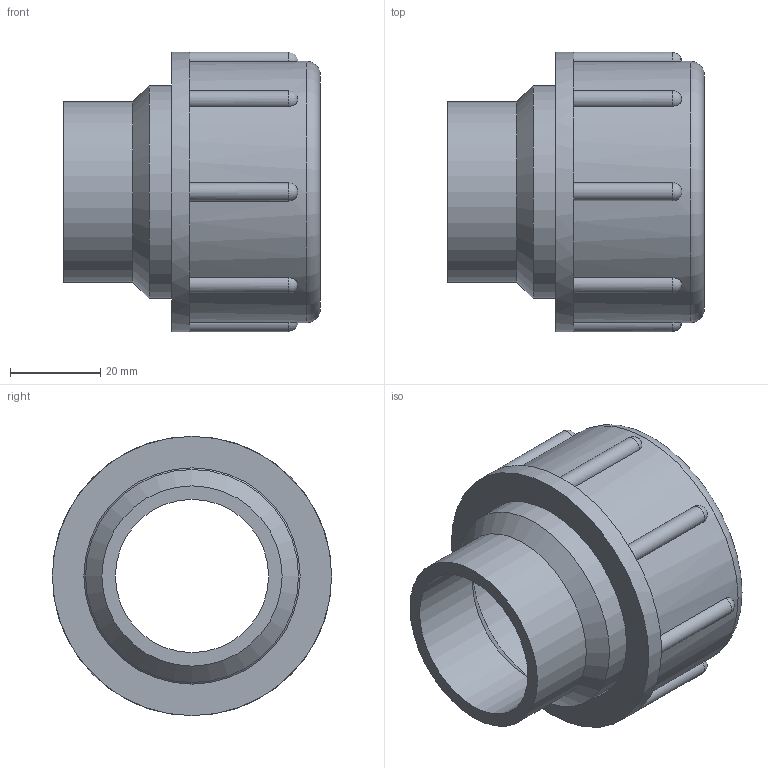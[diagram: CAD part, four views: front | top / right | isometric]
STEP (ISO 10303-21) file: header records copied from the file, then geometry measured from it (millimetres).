
FILE_DESCRIPTION((''),'2;1');
FILE_NAME('F:\Geberit_PE\Export\PE Verschraubung\stp\360740.stp','2011-03-17T20:58:00',(''),(''),'Autodesk Inventor 2011','Autodesk Inventor 2011','');
FILE_SCHEMA(('AUTOMOTIVE_DESIGN { 1 2 10303 214 0 1 1 1 }'));
Length unit declared in the file: millimetre
Products named in the file (1): 360740
Bounding box: 57 x 62 x 62 mm (x, y, z)
Volume: 54905.4 mm3; surface area: 24502.5 mm2
Topology: 2 solids, 2 shells, 51 faces, 141 edges, 85 vertices
Faces by surface type: cylinder 20, plane 14, cone 8, sphere 8, torus 1
Full cylindrical faces by diameter (mm): 34 x1, 40 x1, 40.7 x3, 47.3 x2, 47.8 x1, 48 x2, 58 x1, 62 x1
Entity records: 1660 total; most frequent: CARTESIAN_POINT 419, DIRECTION 272, ORIENTED_EDGE 216, AXIS2_PLACEMENT_3D 128, EDGE_CURVE 108, VERTEX_POINT 83, EDGE_LOOP 78, CIRCLE 76
